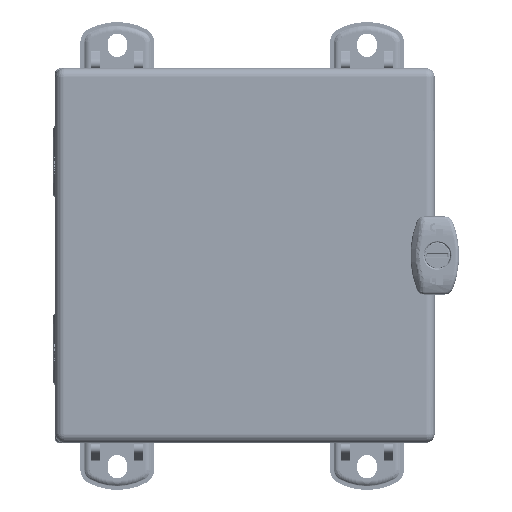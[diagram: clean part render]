
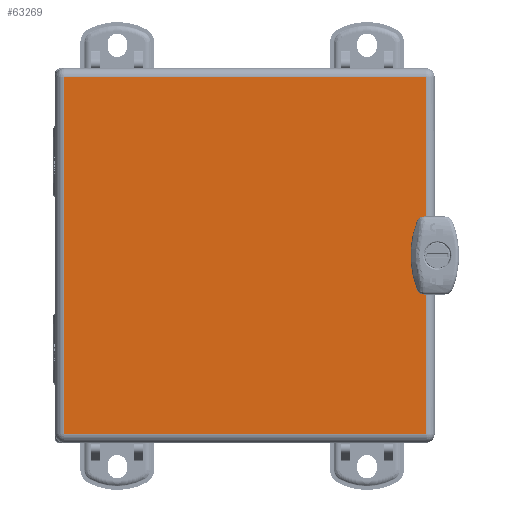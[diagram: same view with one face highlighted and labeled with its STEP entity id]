
A CAD part, top view. The second image highlights one B-rep face of the part: STEP entity #63269.
In plain terms, the highlighted planar face has unit normal (0, 0, 1).
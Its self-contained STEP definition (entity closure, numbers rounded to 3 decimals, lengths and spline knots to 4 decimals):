
#5632=CIRCLE('',#68421,0.03);
#5636=CIRCLE('',#68428,0.03);
#8558=FACE_OUTER_BOUND('',#12446,.T.);
#12446=EDGE_LOOP('',(#48089,#48090,#48091,#48092,#48093,#48094,#48095,#48096,
#48097,#48098));
#17108=LINE('',#107456,#22354);
#17112=LINE('',#107466,#22358);
#17119=LINE('',#107486,#22365);
#17120=LINE('',#107489,#22366);
#17122=LINE('',#107496,#22368);
#17200=LINE('',#107847,#22446);
#17202=LINE('',#107857,#22448);
#17203=LINE('',#107863,#22449);
#22354=VECTOR('',#77939,0.3937);
#22358=VECTOR('',#77947,0.3937);
#22365=VECTOR('',#77968,0.3937);
#22366=VECTOR('',#77971,0.3937);
#22368=VECTOR('',#77977,0.3937);
#22446=VECTOR('',#78207,0.3937);
#22448=VECTOR('',#78219,0.3937);
#22449=VECTOR('',#78230,0.3937);
#27591=VERTEX_POINT('',#107447);
#27592=VERTEX_POINT('',#107449);
#27593=VERTEX_POINT('',#107453);
#27598=VERTEX_POINT('',#107465);
#27600=VERTEX_POINT('',#107471);
#27603=VERTEX_POINT('',#107481);
#27605=VERTEX_POINT('',#107488);
#27608=VERTEX_POINT('',#107494);
#27687=VERTEX_POINT('',#107841);
#27692=VERTEX_POINT('',#107855);
#34827=EDGE_CURVE('',#27592,#27591,#5632,.T.);
#34830=EDGE_CURVE('',#27591,#27593,#17108,.T.);
#34835=EDGE_CURVE('',#27598,#27592,#17112,.T.);
#34838=EDGE_CURVE('',#27600,#27598,#5636,.T.);
#34846=EDGE_CURVE('',#27603,#27600,#17119,.T.);
#34847=EDGE_CURVE('',#27603,#27605,#17120,.T.);
#34851=EDGE_CURVE('',#27608,#27593,#17122,.T.);
#34971=EDGE_CURVE('',#27605,#27687,#17200,.T.);
#34976=EDGE_CURVE('',#27692,#27608,#17202,.T.);
#34980=EDGE_CURVE('',#27687,#27692,#17203,.T.);
#48089=ORIENTED_EDGE('',*,*,#34830,.T.);
#48090=ORIENTED_EDGE('',*,*,#34851,.F.);
#48091=ORIENTED_EDGE('',*,*,#34976,.F.);
#48092=ORIENTED_EDGE('',*,*,#34980,.F.);
#48093=ORIENTED_EDGE('',*,*,#34971,.F.);
#48094=ORIENTED_EDGE('',*,*,#34847,.F.);
#48095=ORIENTED_EDGE('',*,*,#34846,.T.);
#48096=ORIENTED_EDGE('',*,*,#34838,.T.);
#48097=ORIENTED_EDGE('',*,*,#34835,.T.);
#48098=ORIENTED_EDGE('',*,*,#34827,.T.);
#61081=PLANE('',#68529);
#63269=ADVANCED_FACE('',(#8558),#61081,.T.);
#68421=AXIS2_PLACEMENT_3D('',#107450,#77932,#77933);
#68428=AXIS2_PLACEMENT_3D('',#107472,#77953,#77954);
#68529=AXIS2_PLACEMENT_3D('',#107874,#78248,#78249);
#77932=DIRECTION('center_axis',(0.,0.,-1.));
#77933=DIRECTION('ref_axis',(0.,1.,0.));
#77939=DIRECTION('',(1.,0.,0.));
#77947=DIRECTION('',(0.,1.,0.));
#77953=DIRECTION('center_axis',(0.,0.,-1.));
#77954=DIRECTION('ref_axis',(-1.,0.,0.));
#77968=DIRECTION('',(-1.,0.,0.));
#77971=DIRECTION('',(0.,-1.,0.));
#77977=DIRECTION('',(0.,-1.,0.));
#78207=DIRECTION('',(-1.,0.,0.));
#78219=DIRECTION('',(1.,0.,0.));
#78230=DIRECTION('',(0.,1.,0.));
#78248=DIRECTION('center_axis',(0.,0.,1.));
#78249=DIRECTION('ref_axis',(1.,0.,0.));
#107447=CARTESIAN_POINT('',(2.867,0.5625,0.053));
#107449=CARTESIAN_POINT('',(2.837,0.5325,0.053));
#107450=CARTESIAN_POINT('Origin',(2.867,0.5325,0.053));
#107453=CARTESIAN_POINT('',(2.894,0.5625,0.053));
#107456=CARTESIAN_POINT('',(1.5348,0.5625,0.053));
#107465=CARTESIAN_POINT('',(2.837,-0.5325,0.053));
#107466=CARTESIAN_POINT('',(2.837,0.2663,0.053));
#107471=CARTESIAN_POINT('',(2.867,-0.5625,0.053));
#107472=CARTESIAN_POINT('Origin',(2.867,-0.5325,0.053));
#107481=CARTESIAN_POINT('',(2.894,-0.5625,0.053));
#107486=CARTESIAN_POINT('',(1.4335,-0.5625,0.053));
#107488=CARTESIAN_POINT('',(2.894,-2.854,0.053));
#107489=CARTESIAN_POINT('',(2.894,-1.427,0.053));
#107494=CARTESIAN_POINT('',(2.894,2.854,0.053));
#107496=CARTESIAN_POINT('',(2.894,-1.427,0.053));
#107841=CARTESIAN_POINT('',(-2.894,-2.854,0.053));
#107847=CARTESIAN_POINT('',(-1.447,-2.854,0.053));
#107855=CARTESIAN_POINT('',(-2.894,2.854,0.053));
#107857=CARTESIAN_POINT('',(1.447,2.854,0.053));
#107863=CARTESIAN_POINT('',(-2.894,1.427,0.053));
#107874=CARTESIAN_POINT('Origin',(0.,0.,
0.053));
